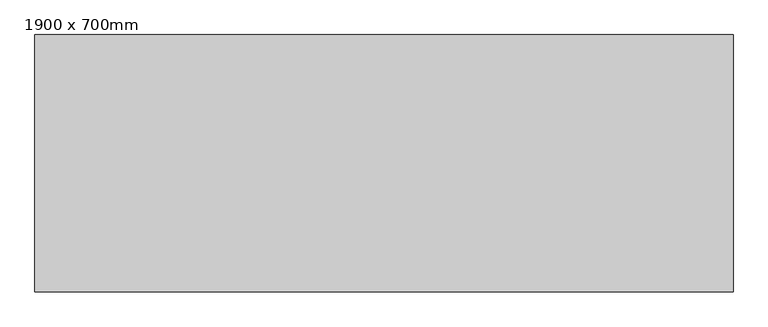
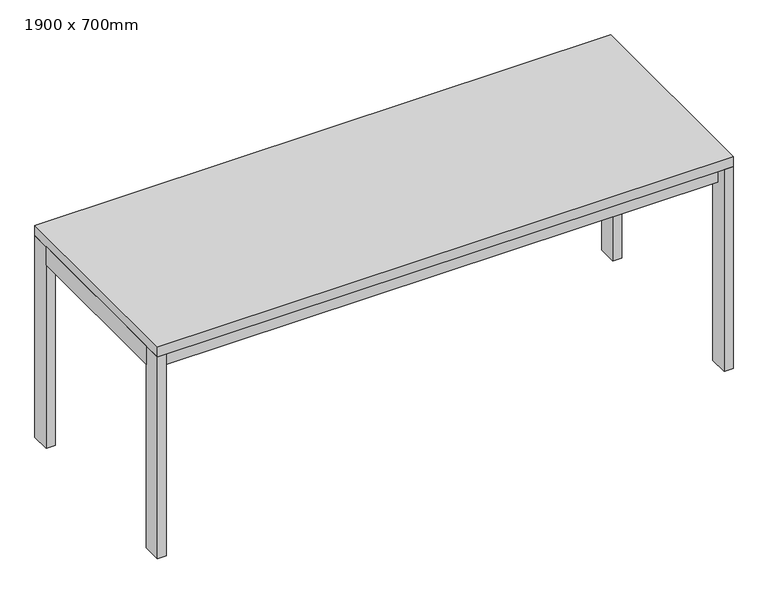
"""IFC4 building model written with IfcOpenShell, lengths in millimetres: furniture geometry, Table - Allround : 1900 x 700mm."""

import ifcopenshell
import ifcopenshell.guid

model = None  # the IFC model being written
_history = None  # IfcOwnerHistory: only IFC2X3 demands one
_inside = {}  # id of a spatial element -> (the spatial element, [elements in it])
_under = {}  # id of a project, library or spatial element -> (it, [spatial elements below it])
_declared = {}  # id of a project -> (the project, [libraries it declares])
_typed = {}  # id of a type object -> (the type object, [elements of that type])
_made_of = {}  # id of a material, layer set ... -> (it, [elements and type objects made of it])


def new_model(schema):
    """Start an empty IFC model of exactly this schema.

    Asked for "IFC4X3", IfcOpenShell would pick the latest addendum, in which some entities
    have other attributes; the version numbers below select the first issue.
    IFC2X3 requires an IfcOwnerHistory on every rooted entity: one is made here for all.
    """
    global model, _history
    if schema == "IFC4X3":
        model = ifcopenshell.file(schema_version=(4, 3, 0, 0))
    else:
        model = ifcopenshell.file(schema=schema)
    _inside.clear()
    _under.clear()
    _declared.clear()
    _typed.clear()
    _made_of.clear()
    _history = None
    if model.schema == "IFC2X3":
        org = make("IfcOrganization", Name="unknown")
        user = make(
            "IfcPersonAndOrganization",
            ThePerson=make("IfcPerson", FamilyName="unknown"),
            TheOrganization=org,
        )
        app = make(
            "IfcApplication",
            ApplicationDeveloper=org,
            Version="unknown",
            ApplicationFullName="unknown",
            ApplicationIdentifier="unknown",
        )
        _history = make(
            "IfcOwnerHistory",
            OwningUser=user,
            OwningApplication=app,
            ChangeAction="ADDED",
            CreationDate=0,
        )
    return model


def make(cls, **values):
    """One entity of the class cls with the attributes given. An attribute that is None is left unset."""
    return model.create_entity(
        cls, **{name: value for name, value in values.items() if value is not None}
    )


def rooted(cls, **values):
    """An entity with a GlobalId (a new one), such as an element, a storey or a relation."""
    return make(cls, GlobalId=ifcopenshell.guid.new(), OwnerHistory=_history, **values)


def si_unit(unit_type, name, prefix=None):
    """IfcSIUnit, for example si_unit("LENGTHUNIT", "METRE", prefix="MILLI")."""
    return make("IfcSIUnit", UnitType=unit_type, Prefix=prefix, Name=name)


def assignment(units):
    """IfcUnitAssignment: the units of a project."""
    return None if units is None else make("IfcUnitAssignment", Units=units)


def point(xyz):
    """IfcCartesianPoint."""
    return None if xyz is None else make("IfcCartesianPoint", Coordinates=xyz)


def direction(xyz):
    """IfcDirection."""
    return None if xyz is None else make("IfcDirection", DirectionRatios=xyz)


def frame(location, z_axis=None, x_axis=None):
    """IfcAxis2Placement3D, a coordinate frame: its origin and axes. An axis left out is left unset."""
    return make(
        "IfcAxis2Placement3D",
        Location=point(location),
        Axis=direction(z_axis),
        RefDirection=direction(x_axis),
    )


def origin():
    """The frame at (0, 0, 0) with its axes left unset."""
    return frame((0.0, 0.0, 0.0))


def origin_with_axes():
    """The frame at (0, 0, 0) with the z axis (0, 0, 1) and the x axis (1, 0, 0) written out."""
    return frame((0.0, 0.0, 0.0), z_axis=(0.0, 0.0, 1.0), x_axis=(1.0, 0.0, 0.0))


def place(relative_to, where):
    """IfcLocalPlacement: puts the frame where relative to a parent placement (None: the world)."""
    return make(
        "IfcLocalPlacement", PlacementRelTo=relative_to, RelativePlacement=where
    )


def context(
    kind, dimensions, precision=None, world=None, true_north=None, identifier=None
):
    """IfcGeometricRepresentationContext, for example the 3D "Model" context."""
    return make(
        "IfcGeometricRepresentationContext",
        ContextIdentifier=identifier,
        ContextType=kind,
        CoordinateSpaceDimension=dimensions,
        Precision=precision,
        WorldCoordinateSystem=world,
        TrueNorth=true_north,
    )


def project(units=None, contexts=None):
    """IfcProject with its units and contexts."""
    return rooted(
        "IfcProject",
        Name="project",
        RepresentationContexts=contexts,
        UnitsInContext=assignment(units),
    )


def spatial(cls, under=None, at=None, **own):
    """A site, building, storey or space (cls), placed at a placement, below another one or the project."""
    s = rooted(cls, ObjectPlacement=at, **own)
    if under is not None:
        _under.setdefault(under.id(), (under, []))[1].append(s)
    return s


def polyline(points):
    """IfcPolyline through the points."""
    return make("IfcPolyline", Points=[point(p) for p in points])


def outline(outer, holes=None, kind="AREA"):
    """IfcArbitraryClosedProfileDef: a profile drawn as a closed curve; with holes, ...WithVoids."""
    if holes is None:
        return make("IfcArbitraryClosedProfileDef", ProfileType=kind, OuterCurve=outer)
    return make(
        "IfcArbitraryProfileDefWithVoids",
        ProfileType=kind,
        OuterCurve=outer,
        InnerCurves=holes,
    )


def extrude(swept, where, along, depth):
    """IfcExtrudedAreaSolid: the profile swept, set in the frame where, extruded along a direction by depth."""
    return make(
        "IfcExtrudedAreaSolid",
        SweptArea=swept,
        Position=where,
        ExtrudedDirection=direction(along),
        Depth=depth,
    )


def shape(context_of_items, identifier, shape_type, items):
    """IfcShapeRepresentation: the items that make up one representation, for example the "Body"."""
    return make(
        "IfcShapeRepresentation",
        ContextOfItems=context_of_items,
        RepresentationIdentifier=identifier,
        RepresentationType=shape_type,
        Items=items,
    )


def source(mapping_origin, context_of_items, identifier, shape_type, items):
    """IfcRepresentationMap: a shape defined once, which mapped items show again and again."""
    return make(
        "IfcRepresentationMap",
        MappingOrigin=mapping_origin,
        MappedRepresentation=shape(context_of_items, identifier, shape_type, items),
    )


def transform(
    local_origin,
    x_axis=None,
    y_axis=None,
    z_axis=None,
    scale=None,
    scale2=None,
    scale3=None,
    uniform=True,
):
    """IfcCartesianTransformationOperator3D, or its non-uniform kind. x_axis, y_axis, z_axis: its Axis1, 2, 3."""
    if uniform:
        return make(
            "IfcCartesianTransformationOperator3D",
            Axis1=direction(x_axis),
            Axis2=direction(y_axis),
            LocalOrigin=point(local_origin),
            Scale=scale,
            Axis3=direction(z_axis),
        )
    return make(
        "IfcCartesianTransformationOperator3DnonUniform",
        Axis1=direction(x_axis),
        Axis2=direction(y_axis),
        LocalOrigin=point(local_origin),
        Scale=scale,
        Axis3=direction(z_axis),
        Scale2=scale2,
        Scale3=scale3,
    )


def mapped(mapping_source, mapping_target):
    """IfcMappedItem: shows the shape of a source again, moved by a transform."""
    return make(
        "IfcMappedItem", MappingSource=mapping_source, MappingTarget=mapping_target
    )


def made_of(thing, what):
    """Note that an element or type object is made of a material, layer set ...; save() writes the relation."""
    if what is not None:
        _made_of.setdefault(what.id(), (what, []))[1].append(thing)
    return thing


def element(
    cls,
    number,
    at=None,
    inside=None,
    cuts=None,
    type_object=None,
    material=None,
    context=None,
    identifier="Body",
    shape_type=None,
    held_by="IfcProductDefinitionShape",
    body=None,
    shapes=None,
    **own,
):
    """One element of the class cls, such as IfcWall. Its Tag is "e" and its number.

    at: its placement. inside: the storey or other place that contains it. cuts: it is an
    opening in that element (IfcRelVoidsElement). A single representation is given by context,
    identifier, shape_type and body (its items); several are given by shapes. held_by: the class
    of the entity that holds the representations. save() writes the other relations.
    """
    e = rooted(cls, Tag="e%d" % number, ObjectPlacement=at, **own)
    if body is not None:
        shapes = [shape(context, identifier, shape_type, body)]
    if shapes is not None:
        e.Representation = make(held_by, Representations=shapes)
    if inside is not None:
        _inside.setdefault(inside.id(), (inside, []))[1].append(e)
    if cuts is not None:
        rooted(
            "IfcRelVoidsElement", RelatingBuildingElement=cuts, RelatedOpeningElement=e
        )
    if type_object is not None:
        _typed.setdefault(type_object.id(), (type_object, []))[1].append(e)
    return made_of(e, material)


def aggregate(whole, parts):
    """IfcRelAggregates: a whole, such as a stair, and the parts it consists of."""
    return rooted("IfcRelAggregates", RelatingObject=whole, RelatedObjects=parts)


def save(model, path):
    """Write the relations noted so far, then the file.

    IfcRelAggregates (storeys below a building ...), IfcRelContainedInSpatialStructure (elements
    in a storey), IfcRelDefinesByType, IfcRelAssociatesMaterial and IfcRelDeclares: one each for
    every whole, place, type object, material and project.
    """
    for whole, parts in _under.values():
        aggregate(whole, parts)
    for where, things in _inside.values():
        rooted(
            "IfcRelContainedInSpatialStructure",
            RelatedElements=things,
            RelatingStructure=where,
        )
    for kind, things in _typed.values():
        rooted("IfcRelDefinesByType", RelatedObjects=things, RelatingType=kind)
    for what, things in _made_of.values():
        rooted("IfcRelAssociatesMaterial", RelatedObjects=things, RelatingMaterial=what)
    for by, libraries in _declared.values():
        rooted("IfcRelDeclares", RelatingContext=by, RelatedDefinitions=libraries)
    model.write(path)


def furniture_1900_x_700mm_ac9d8d07(model_context):
    return source(origin(), model_context, "Body", "SweptSolid", [
        extrude(outline(polyline([(920.0, 315.0), (920.0, 289.6), (-920.0, 289.6), (-920.0, 315.0), (920.0, 315.0)])), frame((0.0, 0.0, 640.0), z_axis=(0.0, 0.0, 1.0), x_axis=(1.0, 0.0, 0.0)), (0.0, 0.0, 1.0), 65.0),
        extrude(outline(polyline([(920.0, -315.0), (-920.0, -315.0), (-920.0, -289.6), (920.0, -289.6), (920.0, -315.0)])), frame((0.0, 0.0, 640.0), z_axis=(0.0, 0.0, 1.0), x_axis=(1.0, 0.0, 0.0)), (0.0, 0.0, 1.0), 65.0),
        extrude(outline(polyline([(-920.0, -286.5), (-950.0, -286.5), (-950.0, 286.5), (-920.0, 286.5), (-920.0, -286.5)])), frame((0.0, 0.0, 640.0), z_axis=(0.0, 0.0, 1.0), x_axis=(1.0, 0.0, 0.0)), (0.0, 0.0, 1.0), 65.0),
        extrude(outline(polyline([(920.0, -286.5), (920.0, 286.5), (950.0, 286.5), (950.0, -286.5), (920.0, -286.5)])), frame((0.0, 0.0, 640.0), z_axis=(0.0, 0.0, 1.0), x_axis=(1.0, 0.0, 0.0)), (0.0, 0.0, 1.0), 65.0),
        extrude(outline(polyline([(950.0, 350.0), (950.0, -350.0), (-950.0, -350.0), (-950.0, 350.0), (950.0, 350.0)])), frame((0.0, 0.0, 705.0), z_axis=(0.0, 0.0, 1.0), x_axis=(1.0, 0.0, 0.0)), (0.0, 0.0, 1.0), 35.0),
        extrude(outline(polyline([(-920.0, 350.0), (-920.0, 286.5), (-950.0, 286.5), (-950.0, 350.0), (-920.0, 350.0)])), origin_with_axes(), (0.0, 0.0, 1.0), 705.0),
        extrude(outline(polyline([(920.0, 350.0), (950.0, 350.0), (950.0, 286.5), (920.0, 286.5), (920.0, 350.0)])), origin_with_axes(), (0.0, 0.0, 1.0), 705.0),
        extrude(outline(polyline([(-920.0, -350.0), (-950.0, -350.0), (-950.0, -286.5), (-920.0, -286.5), (-920.0, -350.0)])), origin_with_axes(), (0.0, 0.0, 1.0), 705.0),
        extrude(outline(polyline([(920.0, -350.0), (920.0, -286.5), (950.0, -286.5), (950.0, -350.0), (920.0, -350.0)])), origin_with_axes(), (0.0, 0.0, 1.0), 705.0),
    ])


if __name__ == "__main__":
    model = new_model("IFC4")
    model_context = context("Model", 3, world=origin())
    ifc_project = project(units=[si_unit("LENGTHUNIT", "METRE", prefix="MILLI")], contexts=[model_context])
    site = spatial("IfcSite", under=ifc_project)
    building = spatial("IfcBuilding", under=site)
    placement = place(None, origin())
    furniture_1900_x_700mm_shape = furniture_1900_x_700mm_ac9d8d07(model_context)
    element("IfcFurniture", 1, ObjectType="Table - Allround : 1900 x 700mm", at=placement, inside=building, context=model_context, shape_type="MappedRepresentation", body=[
        mapped(furniture_1900_x_700mm_shape, transform((0.0, 0.0, 0.0), x_axis=(1.0, 0.0, 0.0), y_axis=(0.0, 1.0, 0.0), z_axis=(0.0, 0.0, 1.0))),
    ])
    save(model, "model.ifc")
